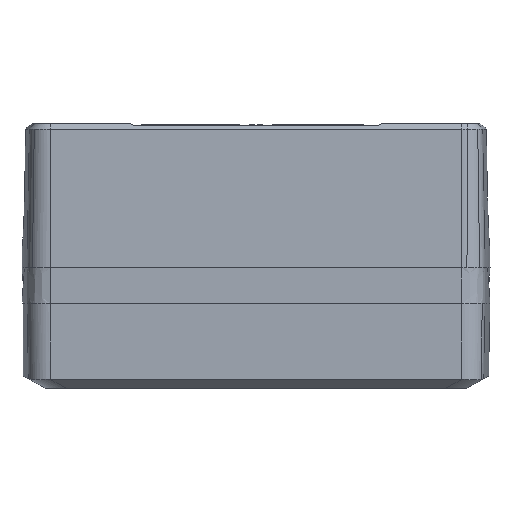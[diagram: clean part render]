
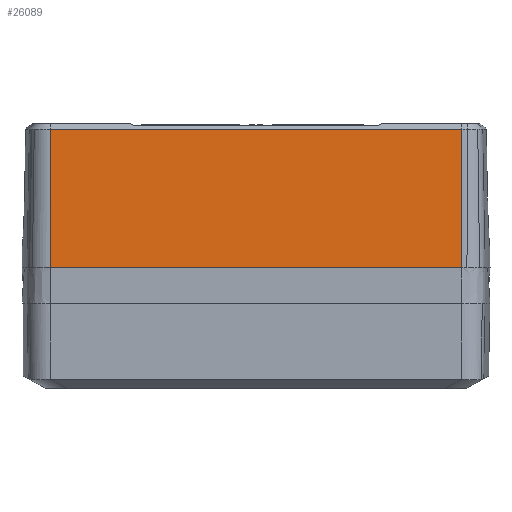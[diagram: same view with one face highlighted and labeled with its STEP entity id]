
A CAD part, front view. The second image highlights one B-rep face of the part: STEP entity #26089.
In plain terms, the highlighted planar face has unit normal (0, -1, 0.018).
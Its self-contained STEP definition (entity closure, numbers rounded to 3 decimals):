
#700 = CARTESIAN_POINT ( 'NONE',  ( -135.192, 235.672, 50.5 ) ) ;
#1040 = EDGE_CURVE ( 'NONE', #36819, #11002, #11318, .T. ) ;
#1356 = CARTESIAN_POINT ( 'NONE',  ( -20.908, 235.672, 50.5 ) ) ;
#1968 = LINE ( 'NONE', #37243, #34032 ) ;
#3864 = VERTEX_POINT ( 'NONE', #16203 ) ;
#4027 = VERTEX_POINT ( 'NONE', #1356 ) ;
#5192 = CARTESIAN_POINT ( 'NONE',  ( -135.19, 235., 12. ) ) ;
#5393 = B_SPLINE_CURVE_WITH_KNOTS ( 'NONE', 3,
 ( #8536, #5192, #30227, #5602 ),
 .UNSPECIFIED., .F., .F.,
 ( 4, 4 ),
 ( 0., 1. ),
 .UNSPECIFIED. ) ;
#5602 = CARTESIAN_POINT ( 'NONE',  ( -135.192, 235., 12. ) ) ;
#5998 = DIRECTION ( 'NONE',  ( 1., 0., 0. ) ) ;
#6503 = EDGE_CURVE ( 'NONE', #4027, #36819, #1968, .T. ) ;
#7430 = DIRECTION ( 'NONE',  ( 0., -1., 0.017 ) ) ;
#8536 = CARTESIAN_POINT ( 'NONE',  ( -135.189, 235., 12. ) ) ;
#9125 = CARTESIAN_POINT ( 'NONE',  ( -57.05, 235., 12. ) ) ;
#9242 = CARTESIAN_POINT ( 'NONE',  ( -135.192, 235., 12. ) ) ;
#11002 = VERTEX_POINT ( 'NONE', #9242 ) ;
#11318 = B_SPLINE_CURVE_WITH_KNOTS ( 'NONE', 3,
 ( #30885, #21689, #18778, #27955 ),
 .UNSPECIFIED., .F., .F.,
 ( 4, 4 ),
 ( 0., 1. ),
 .UNSPECIFIED. ) ;
#12703 = EDGE_LOOP ( 'NONE', ( #35398, #22802, #20217, #26382, #23781 ) ) ;
#15585 = LINE ( 'NONE', #28511, #34832 ) ;
#16203 = CARTESIAN_POINT ( 'NONE',  ( -135.189, 235., 12. ) ) ;
#18222 = CARTESIAN_POINT ( 'NONE',  ( -20.908, 235., 12. ) ) ;
#18778 = CARTESIAN_POINT ( 'NONE',  ( -135.192, 235.224, 24.833 ) ) ;
#20217 = ORIENTED_EDGE ( 'NONE', *, *, #6503, .T. ) ;
#20853 = AXIS2_PLACEMENT_3D ( 'NONE', #9125, #7430, #26400 ) ;
#21689 = CARTESIAN_POINT ( 'NONE',  ( -135.192, 235.448, 37.667 ) ) ;
#21972 = LINE ( 'NONE', #18222, #27306 ) ;
#22802 = ORIENTED_EDGE ( 'NONE', *, *, #37781, .T. ) ;
#23781 = ORIENTED_EDGE ( 'NONE', *, *, #32719, .F. ) ;
#25953 = EDGE_CURVE ( 'NONE', #3864, #36847, #15585, .T. ) ;
#26089 = ADVANCED_FACE ( 'NONE', ( #28103 ), #37711, .T. ) ;
#26382 = ORIENTED_EDGE ( 'NONE', *, *, #1040, .T. ) ;
#26400 = DIRECTION ( 'NONE',  ( -1., 0., 0. ) ) ;
#27306 = VECTOR ( 'NONE', #34078, 1000. ) ;
#27955 = CARTESIAN_POINT ( 'NONE',  ( -135.192, 235., 12. ) ) ;
#28103 = FACE_OUTER_BOUND ( 'NONE', #12703, .T. ) ;
#28511 = CARTESIAN_POINT ( 'NONE',  ( -105.55, 235., 12. ) ) ;
#30227 = CARTESIAN_POINT ( 'NONE',  ( -135.191, 235., 12. ) ) ;
#30885 = CARTESIAN_POINT ( 'NONE',  ( -135.192, 235.672, 50.5 ) ) ;
#30968 = DIRECTION ( 'NONE',  ( -1., 0., 0. ) ) ;
#32719 = EDGE_CURVE ( 'NONE', #3864, #11002, #5393, .T. ) ;
#33451 = CARTESIAN_POINT ( 'NONE',  ( -20.909, 235., 12. ) ) ;
#34032 = VECTOR ( 'NONE', #30968, 1000. ) ;
#34078 = DIRECTION ( 'NONE',  ( 0., 0.017, 1. ) ) ;
#34832 = VECTOR ( 'NONE', #5998, 1000. ) ;
#35398 = ORIENTED_EDGE ( 'NONE', *, *, #25953, .T. ) ;
#36819 = VERTEX_POINT ( 'NONE', #700 ) ;
#36847 = VERTEX_POINT ( 'NONE', #33451 ) ;
#37243 = CARTESIAN_POINT ( 'NONE',  ( -86.692, 235.672, 50.5 ) ) ;
#37711 = PLANE ( 'NONE',  #20853 ) ;
#37781 = EDGE_CURVE ( 'NONE', #36847, #4027, #21972, .T. ) ;
